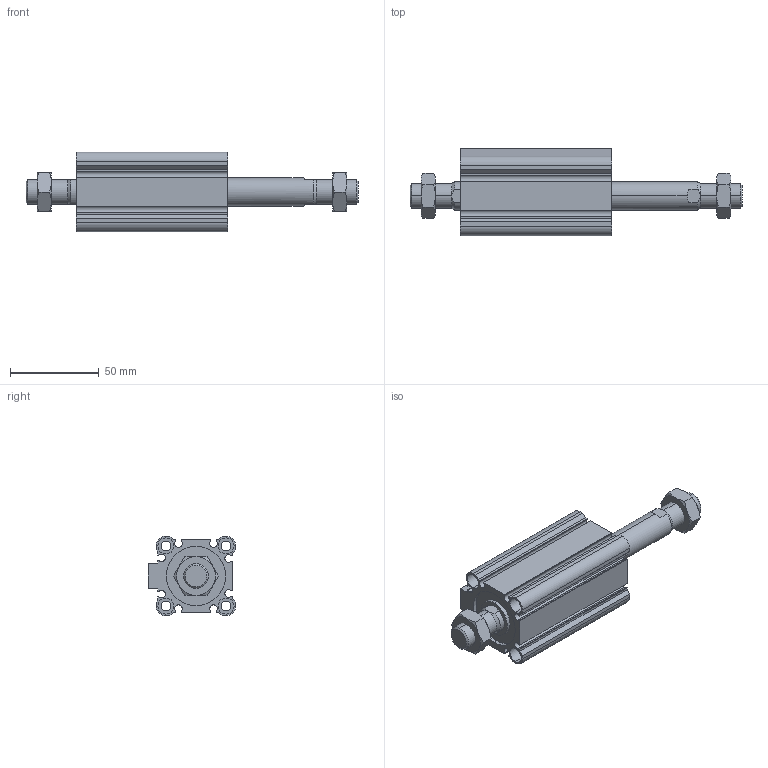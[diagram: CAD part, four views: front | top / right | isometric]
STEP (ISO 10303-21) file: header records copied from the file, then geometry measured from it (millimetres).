
FILE_DESCRIPTION (( 'STEP AP203' ), '1' );
FILE_NAME ('CCMB32-45M-P.STEP', '2020-08-10T11:34:59', ( '' ), ( '' ), 'SwSTEP 2.0', 'SolidWorks 2019', '' );
FILE_SCHEMA (( 'CONFIG_CONTROL_DESIGN' ));
Length unit declared in the file: millimetre
Products named in the file (1): CCMB32-45M-P
Bounding box: 187.5 x 49.5 x 45 mm (x, y, z)
Volume: 133395 mm3; surface area: 55412.5 mm2
Topology: 4 solids, 4 shells, 216 faces, 522 edges, 332 vertices
Faces by surface type: plane 94, cylinder 78, cone 44
Entity records: 7009 total; most frequent: CARTESIAN_POINT 1819, DIRECTION 1088, ORIENTED_EDGE 1044, EDGE_CURVE 522, AXIS2_PLACEMENT_3D 413, VERTEX_POINT 332, LINE 262, VECTOR 262
